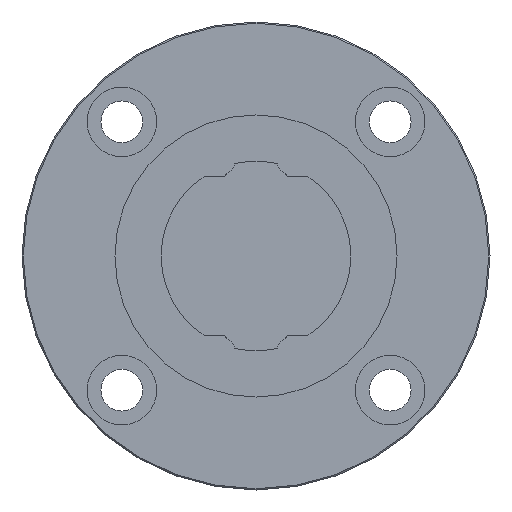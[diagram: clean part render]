
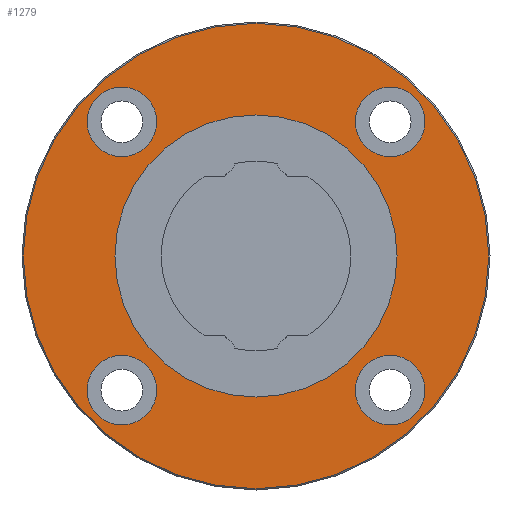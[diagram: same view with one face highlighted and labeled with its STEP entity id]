
A CAD part, left-side view. The second image highlights one B-rep face of the part: STEP entity #1279.
In plain terms, the highlighted planar face has unit normal (-1, 0, 0).
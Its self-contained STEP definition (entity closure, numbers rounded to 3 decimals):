
#48=PLANE('',#1433);
#395=ORIENTED_EDGE('',*,*,#674,.F.);
#396=ORIENTED_EDGE('',*,*,#675,.T.);
#397=ORIENTED_EDGE('',*,*,#676,.T.);
#398=ORIENTED_EDGE('',*,*,#677,.T.);
#399=ORIENTED_EDGE('',*,*,#678,.T.);
#400=ORIENTED_EDGE('',*,*,#673,.T.);
#673=EDGE_CURVE('',#825,#825,#929,.T.);
#674=EDGE_CURVE('',#826,#826,#930,.T.);
#675=EDGE_CURVE('',#827,#827,#931,.T.);
#676=EDGE_CURVE('',#828,#828,#932,.T.);
#677=EDGE_CURVE('',#829,#829,#933,.T.);
#678=EDGE_CURVE('',#830,#830,#934,.T.);
#825=VERTEX_POINT('',#2150);
#826=VERTEX_POINT('',#2153);
#827=VERTEX_POINT('',#2155);
#828=VERTEX_POINT('',#2157);
#829=VERTEX_POINT('',#2159);
#830=VERTEX_POINT('',#2161);
#929=CIRCLE('',#1432,22.3);
#930=CIRCLE('',#1434,36.8);
#931=CIRCLE('',#1435,5.5);
#932=CIRCLE('',#1436,5.5);
#933=CIRCLE('',#1437,5.5);
#934=CIRCLE('',#1438,5.5);
#1002=EDGE_LOOP('',(#395));
#1003=EDGE_LOOP('',(#396));
#1004=EDGE_LOOP('',(#397));
#1005=EDGE_LOOP('',(#398));
#1006=EDGE_LOOP('',(#399));
#1007=EDGE_LOOP('',(#400));
#1118=FACE_BOUND('',#1002,.T.);
#1119=FACE_BOUND('',#1003,.T.);
#1120=FACE_BOUND('',#1004,.T.);
#1121=FACE_BOUND('',#1005,.T.);
#1122=FACE_BOUND('',#1006,.T.);
#1123=FACE_BOUND('',#1007,.T.);
#1279=ADVANCED_FACE('',(#1118,#1119,#1120,#1121,#1122,#1123),#48,.F.);
#1432=AXIS2_PLACEMENT_3D('',#2149,#1731,#1732);
#1433=AXIS2_PLACEMENT_3D('',#2151,#1733,#1734);
#1434=AXIS2_PLACEMENT_3D('',#2152,#1735,#1736);
#1435=AXIS2_PLACEMENT_3D('',#2154,#1737,#1738);
#1436=AXIS2_PLACEMENT_3D('',#2156,#1739,#1740);
#1437=AXIS2_PLACEMENT_3D('',#2158,#1741,#1742);
#1438=AXIS2_PLACEMENT_3D('',#2160,#1743,#1744);
#1731=DIRECTION('',(1.,0.,0.));
#1732=DIRECTION('',(0.,0.,-1.));
#1733=DIRECTION('',(1.,0.,0.));
#1734=DIRECTION('',(0.,0.,-1.));
#1735=DIRECTION('',(1.,0.,0.));
#1736=DIRECTION('',(0.,0.,-1.));
#1737=DIRECTION('',(1.,0.,0.));
#1738=DIRECTION('',(0.,0.,-1.));
#1739=DIRECTION('',(1.,0.,0.));
#1740=DIRECTION('',(0.,0.,-1.));
#1741=DIRECTION('',(1.,0.,0.));
#1742=DIRECTION('',(0.,0.,-1.));
#1743=DIRECTION('',(1.,0.,0.));
#1744=DIRECTION('',(0.,0.,-1.));
#2149=CARTESIAN_POINT('',(-29.8,0.,0.));
#2150=CARTESIAN_POINT('',(-29.8,0.,-22.3));
#2151=CARTESIAN_POINT('',(-29.8,22.3,0.));
#2152=CARTESIAN_POINT('',(-29.8,0.,0.));
#2153=CARTESIAN_POINT('',(-29.8,0.,-36.8));
#2154=CARTESIAN_POINT('',(-29.8,-21.213,21.213));
#2155=CARTESIAN_POINT('',(-29.8,-21.213,15.713));
#2156=CARTESIAN_POINT('',(-29.8,-21.213,-21.213));
#2157=CARTESIAN_POINT('',(-29.8,-21.213,-26.713));
#2158=CARTESIAN_POINT('',(-29.8,21.213,-21.213));
#2159=CARTESIAN_POINT('',(-29.8,21.213,-26.713));
#2160=CARTESIAN_POINT('',(-29.8,21.213,21.213));
#2161=CARTESIAN_POINT('',(-29.8,21.213,15.713));
